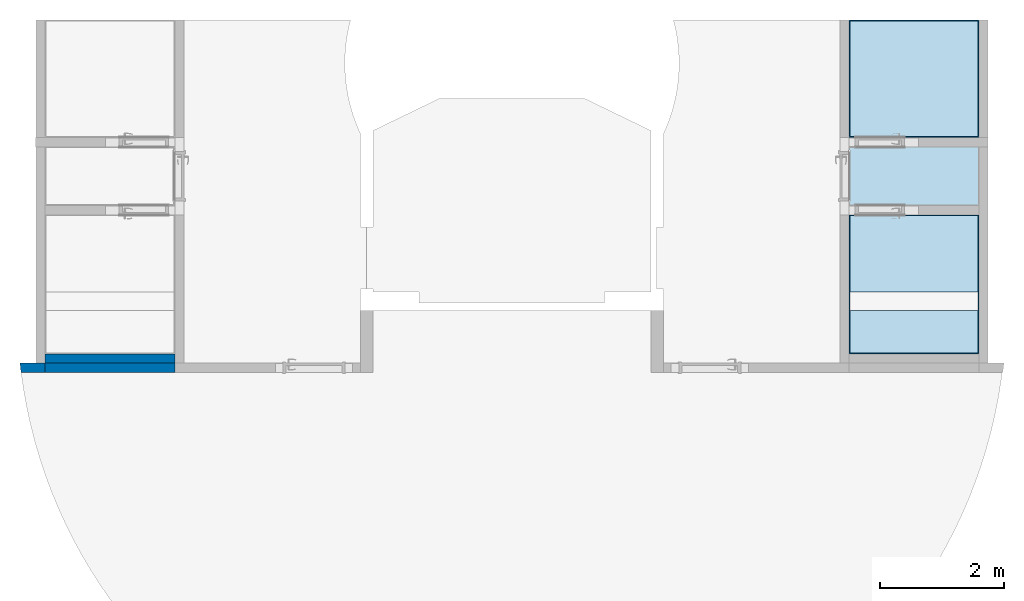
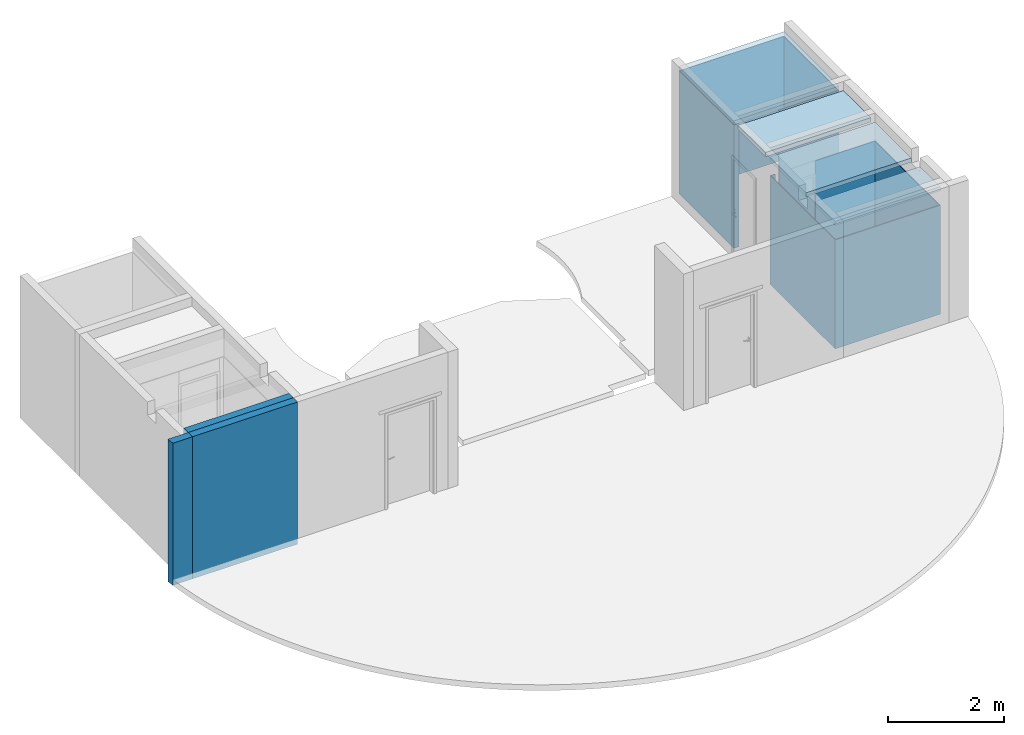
# One storey, part 5 of 17: 5 slabs, 3 walls.
"""IFC4 building model written with IfcOpenShell, lengths in millimetres."""

from ifc_helpers import new_model, entity, si_unit, converted_unit, derived_unit, direction, frame, origin_with_axes, place, context, subcontext, project, spatial, polygons, material, constituent, constituent_set, type_object, element, save


model = new_model("IFC4")

# Units and contexts
model_context = context("Model", 3, precision=0.01, world=origin_with_axes(), true_north=direction((0.0, 1.0)))
body_context = subcontext(model_context, "Body", "Model", "MODEL_VIEW")
ifc_project = project(units=[si_unit("LENGTHUNIT", "METRE", prefix="MILLI"), si_unit("AREAUNIT", "SQUARE_METRE"), si_unit("VOLUMEUNIT", "CUBIC_METRE"), converted_unit("PLANEANGLEUNIT", "DEGREE", entity("IfcPlaneAngleMeasure", 0.0174532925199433), si_unit("PLANEANGLEUNIT", "RADIAN"), dimensions=[0, 0, 0, 0, 0, 0, 0]), converted_unit("TIMEUNIT", "Year", entity("IfcTimeMeasure", 31557600.0), si_unit("TIMEUNIT", "SECOND"), dimensions=[0, 0, 1, 0, 0, 0, 0]), si_unit("MASSUNIT", "GRAM", prefix="KILO"), si_unit("THERMODYNAMICTEMPERATUREUNIT", "DEGREE_CELSIUS"), si_unit("LUMINOUSINTENSITYUNIT", "LUMEN"), si_unit("ENERGYUNIT", "JOULE", prefix="MEGA"), derived_unit("THERMALCONDUCTANCEUNIT", [(si_unit("POWERUNIT", "WATT"), 1), (si_unit("LENGTHUNIT", "METRE"), -1), (si_unit("THERMODYNAMICTEMPERATUREUNIT", "KELVIN"), -1)]), derived_unit("SPECIFICHEATCAPACITYUNIT", [(si_unit("ENERGYUNIT", "JOULE"), 1), (si_unit("MASSUNIT", "GRAM", prefix="KILO"), -1), (si_unit("THERMODYNAMICTEMPERATUREUNIT", "KELVIN"), -1)]), derived_unit("MASSDENSITYUNIT", [(si_unit("MASSUNIT", "GRAM", prefix="KILO"), 1), (si_unit("VOLUMEUNIT", "CUBIC_METRE"), -1)])], contexts=[model_context])

# Site, building, storey
site_placement = place(None, origin_with_axes())
site = spatial("IfcSite", under=ifc_project, at=site_placement, Name="Exteriér", CompositionType="ELEMENT")
building_placement = place(site_placement, origin_with_axes())
building = spatial("IfcBuilding", under=site, at=building_placement, Name="Univerzitní lezecké centrum", CompositionType="ELEMENT")
storey_placement = place(building_placement, frame((0.0, 0.0, 3200.0), z_axis=(0.0, 0.0, 1.0), x_axis=(1.0, 0.0, 0.0)))
storey = spatial("IfcBuildingStorey", under=building, at=storey_placement, Name="2.NP", CompositionType="ELEMENT", Elevation=3200.0)

# Slabs
ifc_material_1 = material(Name="Keramická dlažba 20x40 - obklad")
slab_type_1 = type_object("IfcSlabType", Name="Keramická dlažba 20x40 - obklad 2300", PredefinedType="FLOOR")
slab_1_placement = place(storey_placement, frame((8800.089561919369, 1250.014757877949, 2300.0), z_axis=(0.0, 0.0, 1.0), x_axis=(1.0, 0.0, 0.0)))
element("IfcSlab", 1, at=slab_1_placement, inside=storey, type_object=slab_type_1, material=ifc_material_1, PredefinedType="FLOOR", context=body_context, shape_type="Tessellation", body=[
    polygons([(0.0, 0.0, 0.0), (0.0, 0.0, -2300.0), (0.0, -14.99999764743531, -2300.0), (0.0, -14.99999764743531, 0.0), (1199.803942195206, 0.0, 0.0), (1199.803942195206, 0.0, -2300.0), (1199.803942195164, -2249.627551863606, -2300.0), (-899.9926515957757, -2249.627551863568, -2300.0), (-899.992651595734, 0.0, -2300.0), (-800.0000309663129, 0.0, -2300.0), (-800.0000309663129, -14.99999764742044, -2300.0), (-884.9926539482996, -14.99999764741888, -2300.0), (-884.9926539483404, -2234.992643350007, -2300.0), (1184.803944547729, -2234.992643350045, -2300.0), (1184.80394454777, -14.99999764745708, -2300.0), (1184.80394454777, -14.99999764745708, 0.0), (1184.803944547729, -2234.992643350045, 0.0), (-884.9926539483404, -2234.992643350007, 0.0), (-884.9926539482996, -14.99999764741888, 0.0), (-800.0000309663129, -14.99999764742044, 0.0), (-800.0000309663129, 0.0, 0.0), (-899.992651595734, 0.0, 0.0), (-899.9926515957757, -2249.627551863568, 0.0), (1199.803942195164, -2249.627551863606, 0.0)], [[[1, 2, 3, 4]], [[5, 6, 2, 1]], [[3, 2, 6, 7, 8, 9, 10, 11, 12, 13, 14, 15]], [[4, 3, 15, 16]], [[5, 1, 4, 16, 17, 18, 19, 20, 21, 22, 23, 24]], [[24, 7, 6, 5]], [[23, 8, 7, 24]], [[22, 9, 8, 23]], [[21, 10, 9, 22]], [[20, 11, 10, 21]], [[19, 12, 11, 20]], [[18, 13, 12, 19]], [[17, 14, 13, 18]], [[16, 15, 14, 17]]], closed=True),
])
ifc_material_2 = material(Name="SDK - UA profil nosný 50")
ifc_constituent_1 = constituent(ifc_material_2, Name="SDK - UA profil nosný 50")
ifc_material_3 = material(Name="SDK - R-CD profil montážní")
ifc_constituent_2 = constituent(ifc_material_3, Name="SDK - R-CD profil montážní")
ifc_material_4 = material(Name="Sádrokarton - voděodolný")
ifc_constituent_3 = constituent(ifc_material_4, Name="Sádrokarton - voděodolný")
ifc_constituent_set_1 = constituent_set(constituents=[ifc_constituent_1, ifc_constituent_2, ifc_constituent_3], Name="!SDK - hygienický")
slab_type_2 = type_object("IfcSlabType", Name="!SDK - hygienický 90", PredefinedType="FLOOR")
slab_2_placement = place(storey_placement, frame((9999.893504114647, 2499.999999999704, 2690.0), z_axis=(0.0, 0.0, 1.0), x_axis=(1.0, 0.0, 0.0)))
element("IfcSlab", 2, at=slab_2_placement, inside=storey, type_object=slab_type_2, material=ifc_constituent_set_1, Name="Pdh01", PredefinedType="FLOOR", context=body_context, shape_type="Tessellation", body=[
    polygons([(-2099.838439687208, 1900.00000000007, -49.99999999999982), (-2099.838439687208, 1900.00000000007, 0.0), (-0.04185525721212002, 1899.999999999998, 0.0), (-0.04185525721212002, 1899.999999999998, -49.99999999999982), (-2099.838439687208, 0.0, 0.0), (-2099.838439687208, 0.0, -49.99999999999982), (-0.04185525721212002, 2.806643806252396e-10, 0.0), (-0.04185525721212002, 2.806643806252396e-10, -49.99999999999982)], [[[1, 2, 3, 4]], [[5, 2, 1, 6]], [[2, 5, 7, 3]], [[4, 3, 7, 8]], [[6, 1, 4, 8]], [[5, 6, 8, 7]]], closed=True),
    polygons([(-2099.838439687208, 1900.00000000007, -76.99999999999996), (-2099.838439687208, 1900.00000000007, -49.99999999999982), (-0.04185525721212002, 1899.999999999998, -50.00000000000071), (-0.04185525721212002, 1899.999999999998, -76.99999999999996), (-2099.838439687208, 0.0, -49.99999999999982), (-2099.838439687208, 0.0, -76.99999999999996), (-0.04185525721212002, 2.806643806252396e-10, -49.99999999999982), (-0.04185525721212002, 2.806643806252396e-10, -76.99999999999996)], [[[1, 2, 3, 4]], [[5, 2, 1, 6]], [[2, 5, 7, 3]], [[4, 3, 7, 8]], [[6, 1, 4, 8]], [[5, 6, 8, 7]]], closed=True),
    polygons([(-2099.838439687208, 1900.00000000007, -89.99999999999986), (-2099.838439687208, 1900.00000000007, -76.99999999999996), (-0.04185525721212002, 1899.999999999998, -77.00000000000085), (-0.04185525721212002, 1899.999999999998, -89.99999999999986), (-2099.838439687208, 0.0, -76.99999999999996), (-2099.838439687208, 0.0, -89.99999999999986), (-0.04185525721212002, 2.806643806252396e-10, -76.99999999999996), (-0.04185525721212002, 2.806643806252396e-10, -89.99999999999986)], [[[1, 2, 3, 4]], [[5, 2, 1, 6]], [[2, 5, 7, 3]], [[4, 3, 7, 8]], [[6, 1, 4, 8]], [[5, 6, 8, 7]]], closed=True),
])
ifc_constituent_4 = constituent(ifc_material_2, Name="SDK - UA profil nosný 50")
ifc_constituent_5 = constituent(ifc_material_3, Name="SDK - R-CD profil montážní")
ifc_constituent_6 = constituent(ifc_material_4, Name="Sádrokarton - voděodolný")
ifc_constituent_set_2 = constituent_set(constituents=[ifc_constituent_4, ifc_constituent_5, ifc_constituent_6], Name="!SDK - hygienický")
slab_3_placement = place(storey_placement, frame((9999.893504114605, 1400.007373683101, 2690.0), z_axis=(0.0, 0.0, 1.0), x_axis=(1.0, 0.0, 0.0)))
element("IfcSlab", 3, at=slab_3_placement, inside=storey, type_object=slab_type_2, material=ifc_constituent_set_2, Name="Pdh01", PredefinedType="FLOOR", context=body_context, shape_type="Tessellation", body=[
    polygons([(-0.04185525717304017, 0.103219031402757, 0.0), (-0.04185525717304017, 949.9926263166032, 0.0), (-2099.796584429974, 949.9926263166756, 0.0), (-2099.796584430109, 2.057738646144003e-06, 0.0), (-0.04185525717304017, 949.9926263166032, -49.99999999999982), (-0.04185525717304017, 0.103219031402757, -49.99999999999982), (-2099.796584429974, 949.9926263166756, -49.99999999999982), (-2099.796584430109, 2.057738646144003e-06, -49.99999999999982)], [[[1, 2, 3, 4]], [[5, 2, 1, 6]], [[2, 5, 7, 3]], [[8, 4, 3, 7]], [[6, 1, 4, 8]], [[5, 6, 8, 7]]], closed=True),
    polygons([(-0.04185525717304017, 0.103219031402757, -49.99999999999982), (-0.04185525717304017, 949.9926263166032, -49.99999999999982), (-2099.796584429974, 949.9926263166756, -49.99999999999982), (-2099.796584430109, 2.057738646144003e-06, -49.99999999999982), (-0.04185525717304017, 949.9926263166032, -76.99999999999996), (-0.04185525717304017, 0.103219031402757, -76.99999999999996), (-2099.796584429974, 949.9926263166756, -76.99999999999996), (-2099.796584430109, 2.057738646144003e-06, -76.99999999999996)], [[[1, 2, 3, 4]], [[5, 2, 1, 6]], [[2, 5, 7, 3]], [[8, 4, 3, 7]], [[6, 1, 4, 8]], [[5, 6, 8, 7]]], closed=True),
    polygons([(-0.04185525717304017, 0.103219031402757, -76.99999999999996), (-0.04185525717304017, 949.9926263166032, -76.99999999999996), (-2099.796584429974, 949.9926263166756, -76.99999999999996), (-2099.796584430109, 2.057738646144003e-06, -76.99999999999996), (-0.04185525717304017, 949.9926263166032, -89.99999999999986), (-0.04185525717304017, 0.103219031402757, -89.99999999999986), (-2099.796584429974, 949.9926263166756, -89.99999999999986), (-2099.796584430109, 2.057738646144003e-06, -89.99999999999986)], [[[1, 2, 3, 4]], [[5, 2, 1, 6]], [[2, 5, 7, 3]], [[8, 4, 3, 7]], [[6, 1, 4, 8]], [[5, 6, 8, 7]]], closed=True),
])
ifc_constituent_7 = constituent(ifc_material_2, Name="SDK - UA profil nosný 50")
ifc_constituent_8 = constituent(ifc_material_3, Name="SDK - R-CD profil montážní")
ifc_constituent_9 = constituent(ifc_material_4, Name="Sádrokarton - voděodolný")
ifc_constituent_set_3 = constituent_set(constituents=[ifc_constituent_7, ifc_constituent_8, ifc_constituent_9], Name="!SDK - hygienický")
slab_4_placement = place(storey_placement, frame((9999.851648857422, -999.612793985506, 2690.0), z_axis=(0.0, 0.0, 1.0), x_axis=(1.0, 0.0, 0.0)))
element("IfcSlab", 4, at=slab_4_placement, inside=storey, type_object=slab_type_2, material=ifc_constituent_set_3, Name="Pdh01", PredefinedType="FLOOR", context=body_context, shape_type="Tessellation", body=[
    polygons([(-1.759826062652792e-06, 699.449360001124, -49.99999999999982), (-1.760300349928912e-06, 699.449360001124, 0.0), (0.0, 0.0, 0.0), (0.0, 0.0, -49.99999999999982), (-2099.754729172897, 699.4493681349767, 0.0), (-2099.754729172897, 699.4493681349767, -49.99999999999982), (-2099.754729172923, 0.0, 0.0), (-2099.754729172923, 0.0, -49.99999999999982)], [[[1, 2, 3, 4]], [[5, 2, 1, 6]], [[2, 5, 7, 3]], [[3, 7, 8, 4]], [[6, 1, 4, 8]], [[5, 6, 8, 7]]], closed=True),
    polygons([(-2099.754729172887, 999.4493681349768, 0.0), (-2.515308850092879e-06, 999.4493600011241, 0.0), (-5.66186564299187e-06, 2249.723386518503, 0.0), (-2099.75472917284, 2249.620169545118, 0.0), (-2.514632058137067e-06, 999.4493600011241, -49.99999999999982), (-2099.754729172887, 999.4493681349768, -49.99999999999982), (-5.660343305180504e-06, 2249.723386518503, -49.99999999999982), (-2099.75472917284, 2249.620169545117, -49.99999999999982)], [[[1, 2, 3, 4]], [[5, 2, 1, 6]], [[2, 5, 7, 3]], [[7, 8, 4, 3]], [[6, 1, 4, 8]], [[5, 6, 8, 7]]], closed=True),
    polygons([(-1.759833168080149e-06, 699.449360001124, -76.99999999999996), (-1.760300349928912e-06, 699.449360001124, -49.99999999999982), (0.0, 0.0, -49.99999999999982), (0.0, 0.0, -76.99999999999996), (-2099.754729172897, 699.4493681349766, -49.99999999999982), (-2099.754729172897, 699.4493681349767, -76.99999999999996), (-2099.754729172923, 0.0, -49.99999999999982), (-2099.754729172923, 0.0, -76.99999999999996)], [[[1, 2, 3, 4]], [[5, 2, 1, 6]], [[2, 5, 7, 3]], [[3, 7, 8, 4]], [[6, 1, 4, 8]], [[5, 6, 8, 7]]], closed=True),
    polygons([(-2099.754729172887, 999.4493681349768, -49.99999999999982), (-2.515308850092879e-06, 999.4493600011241, -49.99999999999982), (-5.66186564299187e-06, 2249.723386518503, -49.99999999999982), (-2099.75472917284, 2249.620169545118, -49.99999999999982), (-2.514639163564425e-06, 999.4493600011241, -76.99999999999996), (-2099.754729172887, 999.4493681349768, -76.99999999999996), (-5.660361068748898e-06, 2249.723386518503, -76.99999999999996), (-2099.75472917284, 2249.620169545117, -76.99999999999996)], [[[1, 2, 3, 4]], [[5, 2, 1, 6]], [[2, 5, 7, 3]], [[7, 8, 4, 3]], [[6, 1, 4, 8]], [[5, 6, 8, 7]]], closed=True),
    polygons([(-1.760300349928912e-06, 699.449360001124, -89.99999999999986), (-1.759833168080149e-06, 699.449360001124, -76.99999999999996), (0.0, 0.0, -76.99999999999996), (0.0, 0.0, -89.99999999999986), (-2099.754729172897, 699.4493681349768, -76.99999999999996), (-2099.754729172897, 699.4493681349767, -89.99999999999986), (-2099.754729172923, 0.0, -76.99999999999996), (-2099.754729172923, 0.0, -89.99999999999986)], [[[1, 2, 3, 4]], [[5, 2, 1, 6]], [[2, 5, 7, 3]], [[3, 7, 8, 4]], [[6, 1, 4, 8]], [[5, 6, 8, 7]]], closed=True),
    polygons([(-2099.754729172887, 999.4493681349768, -76.99999999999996), (-2.514639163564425e-06, 999.4493600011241, -76.99999999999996), (-5.660361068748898e-06, 2249.723386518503, -76.99999999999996), (-2099.75472917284, 2249.620169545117, -76.99999999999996), (-2.515308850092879e-06, 999.4493600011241, -89.99999999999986), (-2099.754729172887, 999.4493681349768, -89.99999999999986), (-5.66186564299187e-06, 2249.723386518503, -89.99999999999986), (-2099.75472917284, 2249.620169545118, -89.99999999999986)], [[[1, 2, 3, 4]], [[5, 2, 1, 6]], [[2, 5, 7, 3]], [[7, 8, 4, 3]], [[6, 1, 4, 8]], [[5, 6, 8, 7]]], closed=True),
])
slab_type_3 = type_object("IfcSlabType", Name="Keramická dlažba 20x40 - obklad 2600", PredefinedType="FLOOR")
slab_5_placement = place(storey_placement, frame((9999.893504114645, 4400.000000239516, 2600.0), z_axis=(0.0, 0.0, 1.0), x_axis=(1.0, 0.0, 0.0)))
element("IfcSlab", 5, at=slab_5_placement, inside=storey, type_object=slab_type_3, material=ifc_material_1, PredefinedType="FLOOR", context=body_context, shape_type="Tessellation", body=[
    polygons([(0.0, 0.0, 0.0), (0.0, 0.0, -2600.0), (-2099.796584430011, 0.0, -2600.0), (-2099.796584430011, 0.0, 0.0), (0.0, -1900.000010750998, 0.0), (0.0, -1900.000010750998, -2600.0), (-1199.803952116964, -1900.000010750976, -2600.0), (-1199.803952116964, -1885.000010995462, -2600.0), (-14.999999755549, -1885.000010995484, -2600.0), (-14.99999975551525, -15.00738406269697, -2600.0), (-2084.796584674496, -15.00738406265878, -2600.0), (-2084.796584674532, -1885.000010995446, -2600.0), (-1999.803959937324, -1885.000010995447, -2600.0), (-1999.803959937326, -1900.000010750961, -2600.0), (-2099.796584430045, -1900.000010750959, -2600.0), (-2099.796584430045, -1900.000010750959, 0.0), (-1999.803959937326, -1900.000010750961, 0.0), (-1999.803959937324, -1885.000010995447, 0.0), (-2084.796584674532, -1885.000010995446, 0.0), (-2084.796584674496, -15.00738406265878, 0.0), (-14.99999975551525, -15.00738406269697, 0.0), (-14.999999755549, -1885.000010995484, 0.0), (-1199.803952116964, -1885.000010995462, 0.0), (-1199.803952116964, -1900.000010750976, 0.0)], [[[1, 2, 3, 4]], [[5, 6, 2, 1]], [[3, 2, 6, 7, 8, 9, 10, 11, 12, 13, 14, 15]], [[4, 3, 15, 16]], [[5, 1, 4, 16, 17, 18, 19, 20, 21, 22, 23, 24]], [[24, 7, 6, 5]], [[23, 8, 7, 24]], [[22, 9, 8, 23]], [[21, 10, 9, 22]], [[20, 11, 10, 21]], [[19, 12, 11, 20]], [[18, 13, 12, 19]], [[17, 14, 13, 18]], [[16, 15, 14, 17]]], closed=True),
])

# Walls
ifc_constituent_10 = constituent(ifc_material_1, Name="Keramická dlažba 20x40 - obklad")
ifc_material_5 = material(Name="Lepicí tmel na dlažbu a obklady")
ifc_constituent_11 = constituent(ifc_material_5, Name="Lepicí tmel na dlažbu a obklady")
ifc_constituent_12 = constituent(ifc_material_4, Name="Sádrokarton - voděodolný 1")
ifc_constituent_13 = constituent(ifc_material_4, Name="Sádrokarton - voděodolný 2")
ifc_material_6 = material(Name="SDK nosný rám")
ifc_constituent_14 = constituent(ifc_material_6, Name="SDK nosný rám")
ifc_constituent_set_4 = constituent_set(constituents=[ifc_constituent_10, ifc_constituent_11, ifc_constituent_12, ifc_constituent_13, ifc_constituent_14], Name="SDK - instalační předstěna")
wall_type_1 = type_object("IfcWallType", Name="SDK - instalační předstěna 150", PredefinedType="NOTDEFINED")
wall_1_placement = place(storey_placement, frame((-5100.148351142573, -1149.612793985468, -120.000000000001), z_axis=(0.0, 0.0, 1.0), x_axis=(1.0, 0.0, 0.0)))
element("IfcWall", 6, at=wall_1_placement, inside=storey, type_object=wall_type_1, material=ifc_constituent_set_4, Name="St08*", PredefinedType="NOTDEFINED", context=body_context, shape_type="Tessellation", body=[
    polygons([(0.0, 150.0000000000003, 0.500000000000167), (2099.796584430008, 149.9999999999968, 0.500000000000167), (2099.796584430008, 149.9999999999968, 0.0), (0.0, 149.9999999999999, 0.0), (2099.796584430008, 142.9999999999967, 0.500000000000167), (0.0, 142.9999999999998, 0.500000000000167), (2099.796584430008, 142.9999999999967, 0.0), (0.0, 142.9999999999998, 0.0)], [[[1, 2, 3, 4]], [[5, 2, 1, 6]], [[2, 5, 7, 3]], [[4, 3, 7, 8]], [[6, 1, 4, 8]], [[5, 6, 8, 7]]], closed=True),
    polygons([(2099.796584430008, 142.9999999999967, 120.0000000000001), (2099.796584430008, 149.9999999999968, 120.0000000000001), (2099.796584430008, 149.9999999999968, 3000.0), (2099.796584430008, 142.9999999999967, 3000.0), (0.0, 149.9999999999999, 120.0000000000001), (0.0, 142.9999999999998, 120.0000000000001), (0.0, 150.0000000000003, 3000.0), (0.0, 143.0000000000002, 3000.0)], [[[1, 2, 3, 4]], [[5, 2, 1, 6]], [[2, 5, 7, 3]], [[8, 4, 3, 7]], [[6, 1, 4, 8]], [[5, 6, 8, 7]]], closed=True),
    polygons([(2099.796584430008, 139.9999999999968, 3000.0), (2099.796584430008, 142.9999999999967, 3000.0), (0.0, 143.0000000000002, 3000.0), (0.0, 140.0000000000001, 3000.0), (2099.796584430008, 139.9999999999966, 0.0), (2099.796584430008, 142.9999999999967, 0.0), (0.0, 143.0, 0.0), (0.0, 140.0000000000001, 0.0)], [[[1, 2, 3, 4]], [[1, 5, 6, 2]], [[2, 6, 7, 3]], [[4, 3, 7, 8]], [[5, 1, 4, 8]], [[6, 5, 8, 7]]], closed=True),
    polygons([(2099.796584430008, 126.9999999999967, 3000.0), (2099.796584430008, 139.9999999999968, 3000.0), (0.0, 140.0000000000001, 3000.0), (0.0, 127.0000000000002, 3000.0), (2099.796584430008, 126.9999999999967, 0.0), (2099.796584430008, 139.9999999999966, 0.0), (0.0, 140.0000000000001, 0.0), (0.0, 127.0, 0.0)], [[[1, 2, 3, 4]], [[1, 5, 6, 2]], [[2, 6, 7, 3]], [[4, 3, 7, 8]], [[5, 1, 4, 8]], [[6, 5, 8, 7]]], closed=True),
    polygons([(2099.796584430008, 114.9999999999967, 3000.0), (2099.796584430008, 126.9999999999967, 3000.0), (0.0, 127.0000000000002, 3000.0), (0.0, 115.0000000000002, 3000.0), (2099.796584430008, 114.9999999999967, 0.0), (2099.796584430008, 126.9999999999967, 0.0), (0.0, 127.0, 0.0), (0.0, 115.0, 0.0)], [[[1, 2, 3, 4]], [[1, 5, 6, 2]], [[2, 6, 7, 3]], [[4, 3, 7, 8]], [[5, 1, 4, 8]], [[6, 5, 8, 7]]], closed=True),
    polygons([(0.0, 0.0, 3000.0), (2099.796584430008, 0.0, 3000.0), (2099.796584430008, 114.9999999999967, 3000.0), (0.0, 115.0000000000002, 3000.0), (0.0, 0.0, 0.0), (2099.796584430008, 0.0, 0.0), (2099.796584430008, 114.9999999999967, 0.0), (0.0, 115.0, 0.0)], [[[1, 2, 3, 4]], [[5, 6, 2, 1]], [[3, 2, 6, 7]], [[4, 3, 7, 8]], [[5, 1, 4, 8]], [[8, 7, 6, 5]]], closed=True),
])
ifc_material_7 = material(Name="Keramické tvárnice nenosné tl. 150 mm")
ifc_constituent_15 = constituent(ifc_material_7, Name="Keramické tvárnice nenosné tl. 150 mm")
ifc_constituent_set_5 = constituent_set(constituents=[ifc_constituent_15], Name="!Vnitřní keramická stěna 150 mm - nenosná")
wall_type_2 = type_object("IfcWallType", Name="!Vnitřní keramická stěna 150 mm - nenosná 150", PredefinedType="NOTDEFINED")
wall_2_placement = place(storey_placement, frame((-5100.148351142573, -1149.612793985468, -120.000000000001), z_axis=(0.0, 0.0, 1.0), x_axis=(-1.0, 0.0, 0.0)))
element("IfcWall", 7, at=wall_2_placement, inside=storey, type_object=wall_type_2, material=ifc_constituent_set_5, Name="St07", PredefinedType="NOTDEFINED", context=body_context, shape_type="Tessellation", body=[
    polygons([(404.756999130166, 0.0, 2999.999999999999), (389.5636424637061, 142.1005632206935, 2999.999999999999), (388.4342143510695, 149.9999999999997, 2999.999999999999), (0.0, 150.0000000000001, 2999.999999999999), (0.0, 0.0, 2999.999999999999), (404.756999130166, 0.0, 0.0), (389.5636424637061, 142.1005632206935, 0.0), (388.4342143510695, 149.9999999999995, 0.0), (0.0, 149.9999999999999, 0.0), (0.0, 0.0, 0.0)], [[[1, 2, 3, 4, 5]], [[2, 1, 6, 7]], [[8, 3, 2, 7]], [[3, 8, 9, 4]], [[9, 10, 5, 4]], [[6, 1, 5, 10]], [[7, 6, 10, 9, 8]]], closed=True),
])
ifc_constituent_16 = constituent(ifc_material_7, Name="Keramické tvárnice nenosné tl. 150 mm")
ifc_constituent_set_6 = constituent_set(constituents=[ifc_constituent_16], Name="!Vnitřní keramická stěna 150 mm - nenosná s omítkou")
wall_type_3 = type_object("IfcWallType", Name="!Vnitřní keramická stěna 150 mm - nenosná s omítkou 150", PredefinedType="NOTDEFINED")
wall_3_placement = place(storey_placement, frame((-3000.351766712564, -1149.612793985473, -120.000000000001), z_axis=(0.0, 0.0, 1.0), x_axis=(-1.0, 0.0, 0.0)))
element("IfcWall", 8, at=wall_3_placement, inside=storey, type_object=wall_type_3, material=ifc_constituent_set_6, Name="St08*", PredefinedType="NOTDEFINED", context=body_context, shape_type="Tessellation", body=[
    polygons([(0.0, 0.0, 2999.999999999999), (2099.796584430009, 0.0, 2999.999999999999), (2099.796584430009, 149.9999999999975, 2999.999999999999), (0.0, 150.0000000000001, 2999.999999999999), (0.0, 0.0, 0.0), (2099.796584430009, 0.0, 0.0), (2099.796584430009, 149.9999999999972, 0.0), (0.0, 149.9999999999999, 0.0)], [[[1, 2, 3, 4]], [[5, 6, 2, 1]], [[3, 2, 6, 7]], [[4, 3, 7, 8]], [[5, 1, 4, 8]], [[8, 7, 6, 5]]], closed=True),
])

save(model, "model.ifc")
